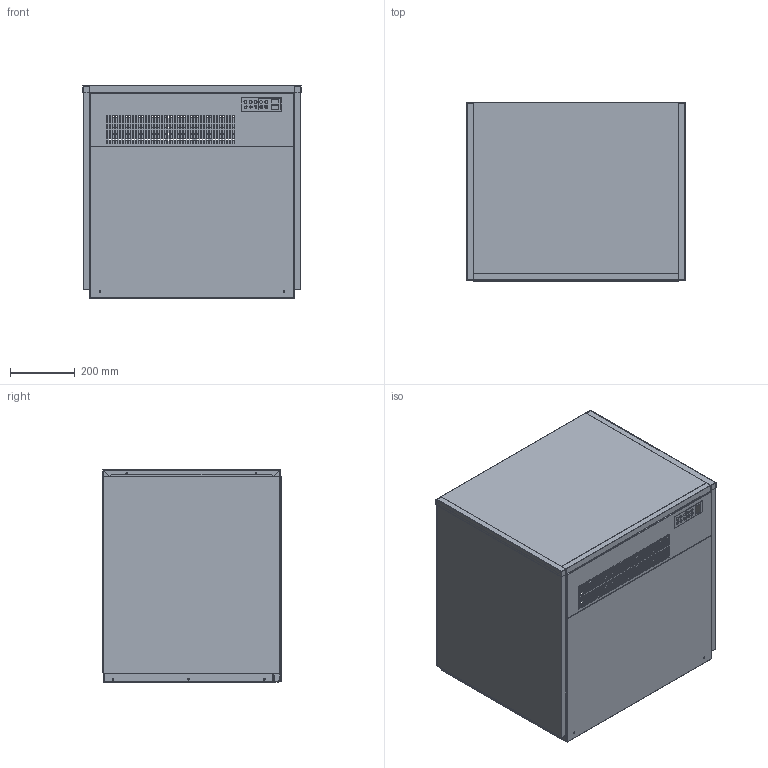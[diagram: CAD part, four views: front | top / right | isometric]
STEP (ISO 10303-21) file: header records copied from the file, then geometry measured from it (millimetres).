
FILE_DESCRIPTION(/* description */ ('Unknown'),/* implementation_level */ '2;1');
FILE_NAME(/* name */ 'IQ-400_REMOTA',/* time_stamp */ '2018-04-23T15:23:57+02:00',/* author */ ('Unknown'),/* organization */ ('Unknown'),/* preprocessor_version */ 'ST-DEVELOPER v16.7',/* originating_system */ 'DEX',/* authorisation */ $);
FILE_SCHEMA (('CONFIG_CONTROL_DESIGN'));
Products named in the file (12): IQ-400_REMOTA; 24-18+2475; 24-26+8774; 24-27+8784; 24-29+8781; 24-218+6648+ce+I; Pilotos-IQ_oa_0; 24-223; 24-19+2476; 24-26+8776; 24-255+8783; 24-254+8779
Assembly tree (11 placements, depth 3):
  IQ-400_REMOTA
    24-18+2475
    24-26+8774
    24-27+8784
    24-29+8781
    24-218+6648+ce+I
    Pilotos-IQ_oa_0
      24-223
    24-19+2476
    24-26+8776
    24-255+8783
    24-254+8779
Bounding box: 675.2 x 551 x 655.6 mm (x, y, z)
Volume: 2314766.8 mm3; surface area: 5606535.1 mm2
Topology: 10 solids, 10 shells, 2100 faces, 5833 edges, 3784 vertices
Faces by surface type: plane 1578, cylinder 474, bspline 48
Full cylindrical faces by diameter (mm): 1 x35, 2.7 x10, 2.75 x13, 3.25 x4, 3.5 x17, 4 x16, 4.2 x6, 4.25 x26, 5 x9, 6 x50, 6.25 x2, 7 x10, 8 x7, 8.5 x1, 9 x5, 15 x2, 22 x1, 30 x2, 50 x1
Entity records: 69256 total; most frequent: CARTESIAN_POINT 12514, ORIENTED_EDGE 11084, DIRECTION 10460, EDGE_CURVE 5542, LINE 4572, VECTOR 4572, VERTEX_POINT 3710, EDGE_LOOP 3140
